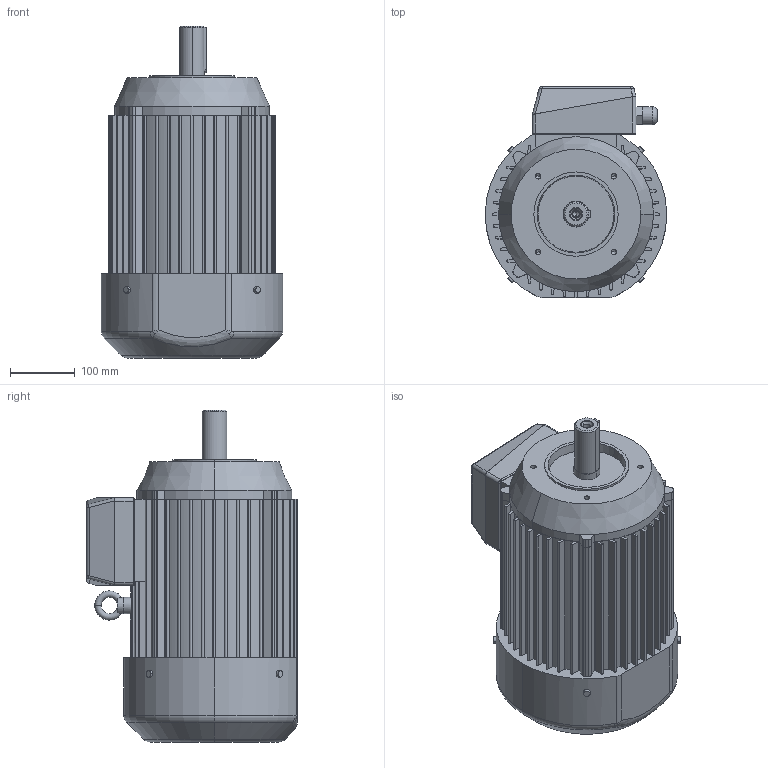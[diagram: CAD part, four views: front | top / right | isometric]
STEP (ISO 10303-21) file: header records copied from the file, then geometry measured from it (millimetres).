
FILE_DESCRIPTION (( 'STEP AP203' ), '1' );
FILE_NAME ('3SIEK132S;M-B14-C2.STEP', '2014-07-22T06:47:05', ( '' ), ( '' ), 'SwSTEP 2.0', 'SolidWorks 2003064', '' );
FILE_SCHEMA (( 'CONFIG_CONTROL_DESIGN' ));
Length unit declared in the file: millimetre
Products named in the file (1): 3SIEK132S;M-B14-C2
Bounding box: 280 x 325 x 512 mm (x, y, z)
Volume: 23029028.2 mm3; surface area: 902871.1 mm2
Topology: 14 solids, 14 shells, 395 faces, 1027 edges, 652 vertices
Faces by surface type: cylinder 178, plane 168, cone 24, torus 16, bspline 5, sphere 4
Entity records: 15789 total; most frequent: CARTESIAN_POINT 5908, DIRECTION 2136, ORIENTED_EDGE 2022, EDGE_CURVE 1011, AXIS2_PLACEMENT_3D 779, VERTEX_POINT 652, LINE 578, VECTOR 578
